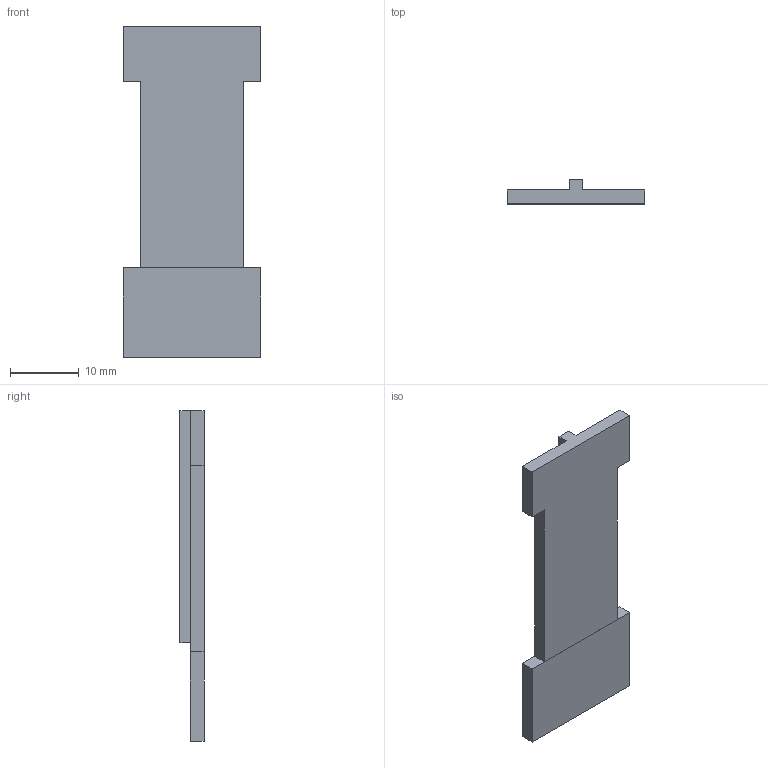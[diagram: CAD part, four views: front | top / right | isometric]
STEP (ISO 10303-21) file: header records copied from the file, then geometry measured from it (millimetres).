
FILE_DESCRIPTION (( 'STEP AP214' ), '1' );
FILE_NAME ('002351.STEP', '2022-02-21T08:18:38', ( '' ), ( '' ), 'SwSTEP 2.0', 'SolidWorks 2021', '' );
FILE_SCHEMA (( 'AUTOMOTIVE_DESIGN' ));
Length unit declared in the file: millimetre
Products named in the file (1): 002351
Bounding box: 20 x 3.5 x 48 mm (x, y, z)
Volume: 1751.1 mm3; surface area: 2109.1 mm2
Topology: 2 solids, 2 shells, 20 faces, 48 edges, 32 vertices
Faces by surface type: plane 20
Entity records: 615 total; most frequent: CARTESIAN_POINT 101, ORIENTED_EDGE 96, DIRECTION 90, VECTOR 48, LINE 48, EDGE_CURVE 48, VERTEX_POINT 32, AXIS2_PLACEMENT_3D 21
